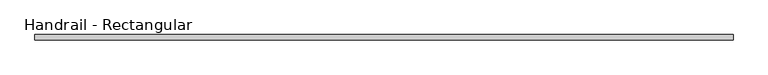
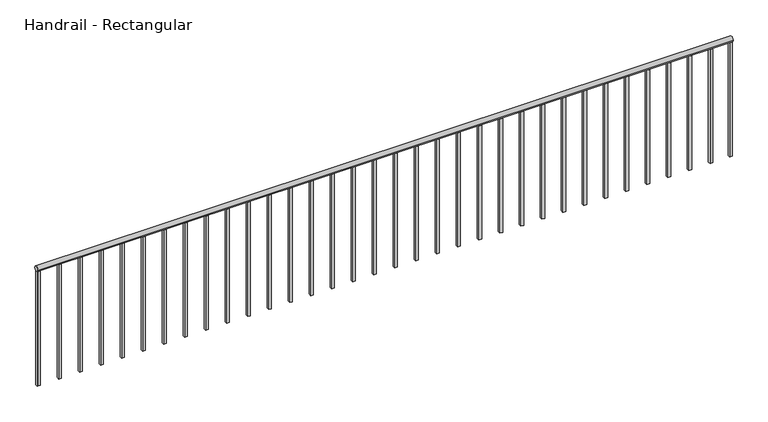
"""IFC4 building model written with IfcOpenShell, lengths in millimetres: railing geometry, Handrail - Rectangular."""

from ifc_helpers import new_model, si_unit, point, frame, frame_2d, origin, place, context, project, spatial, polyline, circle_curve, trimmed, segment, composite_curve, outline, extrude, source, transform, mapped, element, save


def handrail_rectangular_c44e27ec(model_context):
    return source(origin(), model_context, "Body", "SweptSolid", [
        extrude(outline(composite_curve([segment(trimmed(circle_curve(frame_2d((11944.8316867, 3943.35)), 19.05), [point((11963.8816867, 3943.35))], [point((11925.7816867, 3943.35))], False, "CARTESIAN"), True, "CONTINUOUS"), segment(trimmed(circle_curve(frame_2d((11944.8316867, 3943.35)), 19.05), [point((11925.7816867, 3943.35))], [point((11963.8816867, 3943.35))], False, "CARTESIAN"), True, "CONTINUOUS")], self_intersect=False)), frame((-23747.3839563, 0.0, 0.0), z_axis=(1.0, 0.0, 0.0), x_axis=(0.0, 1.0, 0.0)), (0.0, 0.0, 1.0), 5041.9),
        extrude(outline(polyline([(-23725.1589563, 11935.3066867), (-23744.2089563, 11935.3066867), (-23744.2089563, 11954.3566867), (-23725.1589563, 11954.3566867), (-23725.1589563, 11935.3066867)])), frame((0.0, 0.0, 3048.0), z_axis=(0.0, 0.0, 1.0), x_axis=(1.0, 0.0, 0.0)), (0.0, 0.0, 1.0), 876.3),
        extrude(outline(polyline([(-23572.7589563, 11935.3066867), (-23591.8089563, 11935.3066867), (-23591.8089563, 11954.3566867), (-23572.7589563, 11954.3566867), (-23572.7589563, 11935.3066867)])), frame((0.0, 0.0, 3048.0), z_axis=(0.0, 0.0, 1.0), x_axis=(1.0, 0.0, 0.0)), (0.0, 0.0, 1.0), 876.3),
        extrude(outline(polyline([(-23420.3589563, 11935.3066867), (-23439.4089563, 11935.3066867), (-23439.4089563, 11954.3566867), (-23420.3589563, 11954.3566867), (-23420.3589563, 11935.3066867)])), frame((0.0, 0.0, 3048.0), z_axis=(0.0, 0.0, 1.0), x_axis=(1.0, 0.0, 0.0)), (0.0, 0.0, 1.0), 876.3),
        extrude(outline(polyline([(-23267.9589563, 11935.3066867), (-23287.0089563, 11935.3066867), (-23287.0089563, 11954.3566867), (-23267.9589563, 11954.3566867), (-23267.9589563, 11935.3066867)])), frame((0.0, 0.0, 3048.0), z_axis=(0.0, 0.0, 1.0), x_axis=(1.0, 0.0, 0.0)), (0.0, 0.0, 1.0), 876.3),
        extrude(outline(polyline([(-23115.5589563, 11935.3066867), (-23134.6089563, 11935.3066867), (-23134.6089563, 11954.3566867), (-23115.5589563, 11954.3566867), (-23115.5589563, 11935.3066867)])), frame((0.0, 0.0, 3048.0), z_axis=(0.0, 0.0, 1.0), x_axis=(1.0, 0.0, 0.0)), (0.0, 0.0, 1.0), 876.3),
        extrude(outline(polyline([(-22963.1589563, 11935.3066867), (-22982.2089563, 11935.3066867), (-22982.2089563, 11954.3566867), (-22963.1589563, 11954.3566867), (-22963.1589563, 11935.3066867)])), frame((0.0, 0.0, 3048.0), z_axis=(0.0, 0.0, 1.0), x_axis=(1.0, 0.0, 0.0)), (0.0, 0.0, 1.0), 876.3),
        extrude(outline(polyline([(-22810.7589563, 11935.3066867), (-22829.8089563, 11935.3066867), (-22829.8089563, 11954.3566867), (-22810.7589563, 11954.3566867), (-22810.7589563, 11935.3066867)])), frame((0.0, 0.0, 3048.0), z_axis=(0.0, 0.0, 1.0), x_axis=(1.0, 0.0, 0.0)), (0.0, 0.0, 1.0), 876.3),
        extrude(outline(polyline([(-22658.3589563, 11935.3066867), (-22677.4089563, 11935.3066867), (-22677.4089563, 11954.3566867), (-22658.3589563, 11954.3566867), (-22658.3589563, 11935.3066867)])), frame((0.0, 0.0, 3048.0), z_axis=(0.0, 0.0, 1.0), x_axis=(1.0, 0.0, 0.0)), (0.0, 0.0, 1.0), 876.3),
        extrude(outline(polyline([(-22505.9589563, 11935.3066867), (-22525.0089563, 11935.3066867), (-22525.0089563, 11954.3566867), (-22505.9589563, 11954.3566867), (-22505.9589563, 11935.3066867)])), frame((0.0, 0.0, 3048.0), z_axis=(0.0, 0.0, 1.0), x_axis=(1.0, 0.0, 0.0)), (0.0, 0.0, 1.0), 876.3),
        extrude(outline(polyline([(-22353.5589563, 11935.3066867), (-22372.6089563, 11935.3066867), (-22372.6089563, 11954.3566867), (-22353.5589563, 11954.3566867), (-22353.5589563, 11935.3066867)])), frame((0.0, 0.0, 3048.0), z_axis=(0.0, 0.0, 1.0), x_axis=(1.0, 0.0, 0.0)), (0.0, 0.0, 1.0), 876.3),
        extrude(outline(polyline([(-22201.1589563, 11935.3066867), (-22220.2089563, 11935.3066867), (-22220.2089563, 11954.3566867), (-22201.1589563, 11954.3566867), (-22201.1589563, 11935.3066867)])), frame((0.0, 0.0, 3048.0), z_axis=(0.0, 0.0, 1.0), x_axis=(1.0, 0.0, 0.0)), (0.0, 0.0, 1.0), 876.3),
        extrude(outline(polyline([(-22048.7589563, 11935.3066867), (-22067.8089563, 11935.3066867), (-22067.8089563, 11954.3566867), (-22048.7589563, 11954.3566867), (-22048.7589563, 11935.3066867)])), frame((0.0, 0.0, 3048.0), z_axis=(0.0, 0.0, 1.0), x_axis=(1.0, 0.0, 0.0)), (0.0, 0.0, 1.0), 876.3),
        extrude(outline(polyline([(-21896.3589563, 11935.3066867), (-21915.4089563, 11935.3066867), (-21915.4089563, 11954.3566867), (-21896.3589563, 11954.3566867), (-21896.3589563, 11935.3066867)])), frame((0.0, 0.0, 3048.0), z_axis=(0.0, 0.0, 1.0), x_axis=(1.0, 0.0, 0.0)), (0.0, 0.0, 1.0), 876.3),
        extrude(outline(polyline([(-21743.9589563, 11935.3066867), (-21763.0089563, 11935.3066867), (-21763.0089563, 11954.3566867), (-21743.9589563, 11954.3566867), (-21743.9589563, 11935.3066867)])), frame((0.0, 0.0, 3048.0), z_axis=(0.0, 0.0, 1.0), x_axis=(1.0, 0.0, 0.0)), (0.0, 0.0, 1.0), 876.3),
        extrude(outline(polyline([(-21591.5589563, 11935.3066867), (-21610.6089563, 11935.3066867), (-21610.6089563, 11954.3566867), (-21591.5589563, 11954.3566867), (-21591.5589563, 11935.3066867)])), frame((0.0, 0.0, 3048.0), z_axis=(0.0, 0.0, 1.0), x_axis=(1.0, 0.0, 0.0)), (0.0, 0.0, 1.0), 876.3),
        extrude(outline(polyline([(-21439.1589563, 11935.3066867), (-21458.2089563, 11935.3066867), (-21458.2089563, 11954.3566867), (-21439.1589563, 11954.3566867), (-21439.1589563, 11935.3066867)])), frame((0.0, 0.0, 3048.0), z_axis=(0.0, 0.0, 1.0), x_axis=(1.0, 0.0, 0.0)), (0.0, 0.0, 1.0), 876.3),
        extrude(outline(polyline([(-21286.7589563, 11935.3066867), (-21305.8089563, 11935.3066867), (-21305.8089563, 11954.3566867), (-21286.7589563, 11954.3566867), (-21286.7589563, 11935.3066867)])), frame((0.0, 0.0, 3048.0), z_axis=(0.0, 0.0, 1.0), x_axis=(1.0, 0.0, 0.0)), (0.0, 0.0, 1.0), 876.3),
        extrude(outline(polyline([(-21134.3589563, 11935.3066867), (-21153.4089563, 11935.3066867), (-21153.4089563, 11954.3566867), (-21134.3589563, 11954.3566867), (-21134.3589563, 11935.3066867)])), frame((0.0, 0.0, 3048.0), z_axis=(0.0, 0.0, 1.0), x_axis=(1.0, 0.0, 0.0)), (0.0, 0.0, 1.0), 876.3),
        extrude(outline(polyline([(-20981.9589563, 11935.3066867), (-21001.0089563, 11935.3066867), (-21001.0089563, 11954.3566867), (-20981.9589563, 11954.3566867), (-20981.9589563, 11935.3066867)])), frame((0.0, 0.0, 3048.0), z_axis=(0.0, 0.0, 1.0), x_axis=(1.0, 0.0, 0.0)), (0.0, 0.0, 1.0), 876.3),
        extrude(outline(polyline([(-20829.5589563, 11935.3066867), (-20848.6089563, 11935.3066867), (-20848.6089563, 11954.3566867), (-20829.5589563, 11954.3566867), (-20829.5589563, 11935.3066867)])), frame((0.0, 0.0, 3048.0), z_axis=(0.0, 0.0, 1.0), x_axis=(1.0, 0.0, 0.0)), (0.0, 0.0, 1.0), 876.3),
        extrude(outline(polyline([(-20677.1589563, 11935.3066867), (-20696.2089563, 11935.3066867), (-20696.2089563, 11954.3566867), (-20677.1589563, 11954.3566867), (-20677.1589563, 11935.3066867)])), frame((0.0, 0.0, 3048.0), z_axis=(0.0, 0.0, 1.0), x_axis=(1.0, 0.0, 0.0)), (0.0, 0.0, 1.0), 876.3),
        extrude(outline(polyline([(-20524.7589563, 11935.3066867), (-20543.8089563, 11935.3066867), (-20543.8089563, 11954.3566867), (-20524.7589563, 11954.3566867), (-20524.7589563, 11935.3066867)])), frame((0.0, 0.0, 3048.0), z_axis=(0.0, 0.0, 1.0), x_axis=(1.0, 0.0, 0.0)), (0.0, 0.0, 1.0), 876.3),
        extrude(outline(polyline([(-20372.3589563, 11935.3066867), (-20391.4089563, 11935.3066867), (-20391.4089563, 11954.3566867), (-20372.3589563, 11954.3566867), (-20372.3589563, 11935.3066867)])), frame((0.0, 0.0, 3048.0), z_axis=(0.0, 0.0, 1.0), x_axis=(1.0, 0.0, 0.0)), (0.0, 0.0, 1.0), 876.3),
        extrude(outline(polyline([(-20219.9589563, 11935.3066867), (-20239.0089563, 11935.3066867), (-20239.0089563, 11954.3566867), (-20219.9589563, 11954.3566867), (-20219.9589563, 11935.3066867)])), frame((0.0, 0.0, 3048.0), z_axis=(0.0, 0.0, 1.0), x_axis=(1.0, 0.0, 0.0)), (0.0, 0.0, 1.0), 876.3),
        extrude(outline(polyline([(-20067.5589563, 11935.3066867), (-20086.6089563, 11935.3066867), (-20086.6089563, 11954.3566867), (-20067.5589563, 11954.3566867), (-20067.5589563, 11935.3066867)])), frame((0.0, 0.0, 3048.0), z_axis=(0.0, 0.0, 1.0), x_axis=(1.0, 0.0, 0.0)), (0.0, 0.0, 1.0), 876.3),
        extrude(outline(polyline([(-19915.1589563, 11935.3066867), (-19934.2089563, 11935.3066867), (-19934.2089563, 11954.3566867), (-19915.1589563, 11954.3566867), (-19915.1589563, 11935.3066867)])), frame((0.0, 0.0, 3048.0), z_axis=(0.0, 0.0, 1.0), x_axis=(1.0, 0.0, 0.0)), (0.0, 0.0, 1.0), 876.3),
        extrude(outline(polyline([(-19762.7589563, 11935.3066867), (-19781.8089563, 11935.3066867), (-19781.8089563, 11954.3566867), (-19762.7589563, 11954.3566867), (-19762.7589563, 11935.3066867)])), frame((0.0, 0.0, 3048.0), z_axis=(0.0, 0.0, 1.0), x_axis=(1.0, 0.0, 0.0)), (0.0, 0.0, 1.0), 876.3),
        extrude(outline(polyline([(-19610.3589563, 11935.3066867), (-19629.4089563, 11935.3066867), (-19629.4089563, 11954.3566867), (-19610.3589563, 11954.3566867), (-19610.3589563, 11935.3066867)])), frame((0.0, 0.0, 3048.0), z_axis=(0.0, 0.0, 1.0), x_axis=(1.0, 0.0, 0.0)), (0.0, 0.0, 1.0), 876.3),
        extrude(outline(polyline([(-19457.9589563, 11935.3066867), (-19477.0089563, 11935.3066867), (-19477.0089563, 11954.3566867), (-19457.9589563, 11954.3566867), (-19457.9589563, 11935.3066867)])), frame((0.0, 0.0, 3048.0), z_axis=(0.0, 0.0, 1.0), x_axis=(1.0, 0.0, 0.0)), (0.0, 0.0, 1.0), 876.3),
        extrude(outline(polyline([(-19305.5589563, 11935.3066867), (-19324.6089563, 11935.3066867), (-19324.6089563, 11954.3566867), (-19305.5589563, 11954.3566867), (-19305.5589563, 11935.3066867)])), frame((0.0, 0.0, 3048.0), z_axis=(0.0, 0.0, 1.0), x_axis=(1.0, 0.0, 0.0)), (0.0, 0.0, 1.0), 876.3),
        extrude(outline(polyline([(-19153.1589563, 11935.3066867), (-19172.2089563, 11935.3066867), (-19172.2089563, 11954.3566867), (-19153.1589563, 11954.3566867), (-19153.1589563, 11935.3066867)])), frame((0.0, 0.0, 3048.0), z_axis=(0.0, 0.0, 1.0), x_axis=(1.0, 0.0, 0.0)), (0.0, 0.0, 1.0), 876.3),
        extrude(outline(polyline([(-19000.7589563, 11935.3066867), (-19019.8089563, 11935.3066867), (-19019.8089563, 11954.3566867), (-19000.7589563, 11954.3566867), (-19000.7589563, 11935.3066867)])), frame((0.0, 0.0, 3048.0), z_axis=(0.0, 0.0, 1.0), x_axis=(1.0, 0.0, 0.0)), (0.0, 0.0, 1.0), 876.3),
        extrude(outline(polyline([(-18848.3589563, 11935.3066867), (-18867.4089563, 11935.3066867), (-18867.4089563, 11954.3566867), (-18848.3589563, 11954.3566867), (-18848.3589563, 11935.3066867)])), frame((0.0, 0.0, 3048.0), z_axis=(0.0, 0.0, 1.0), x_axis=(1.0, 0.0, 0.0)), (0.0, 0.0, 1.0), 876.3),
        extrude(outline(polyline([(-23728.3339563, 11935.3066867), (-23747.3839563, 11935.3066867), (-23747.3839563, 11954.3566867), (-23728.3339563, 11954.3566867), (-23728.3339563, 11935.3066867)])), frame((0.0, 0.0, 3048.0), z_axis=(0.0, 0.0, 1.0), x_axis=(1.0, 0.0, 0.0)), (0.0, 0.0, 1.0), 876.3),
        extrude(outline(polyline([(-18705.4839563, 11935.3066867), (-18724.5339563, 11935.3066867), (-18724.5339563, 11954.3566867), (-18705.4839563, 11954.3566867), (-18705.4839563, 11935.3066867)])), frame((0.0, 0.0, 3048.0), z_axis=(0.0, 0.0, 1.0), x_axis=(1.0, 0.0, 0.0)), (0.0, 0.0, 1.0), 876.3),
    ])


if __name__ == "__main__":
    model = new_model("IFC4")
    model_context = context("Model", 3, world=origin())
    ifc_project = project(units=[si_unit("LENGTHUNIT", "METRE", prefix="MILLI")], contexts=[model_context])
    site = spatial("IfcSite", under=ifc_project)
    building = spatial("IfcBuilding", under=site)
    placement = place(None, origin())
    handrail_rectangular_shape = handrail_rectangular_c44e27ec(model_context)
    element("IfcRailing", 1, ObjectType="Handrail - Rectangular", at=placement, inside=building, context=model_context, shape_type="MappedRepresentation", body=[
        mapped(handrail_rectangular_shape, transform((0.0, 0.0, 0.0), x_axis=(1.0, 0.0, 0.0), y_axis=(0.0, 1.0, 0.0), z_axis=(0.0, 0.0, 1.0))),
    ])
    save(model, "model.ifc")
